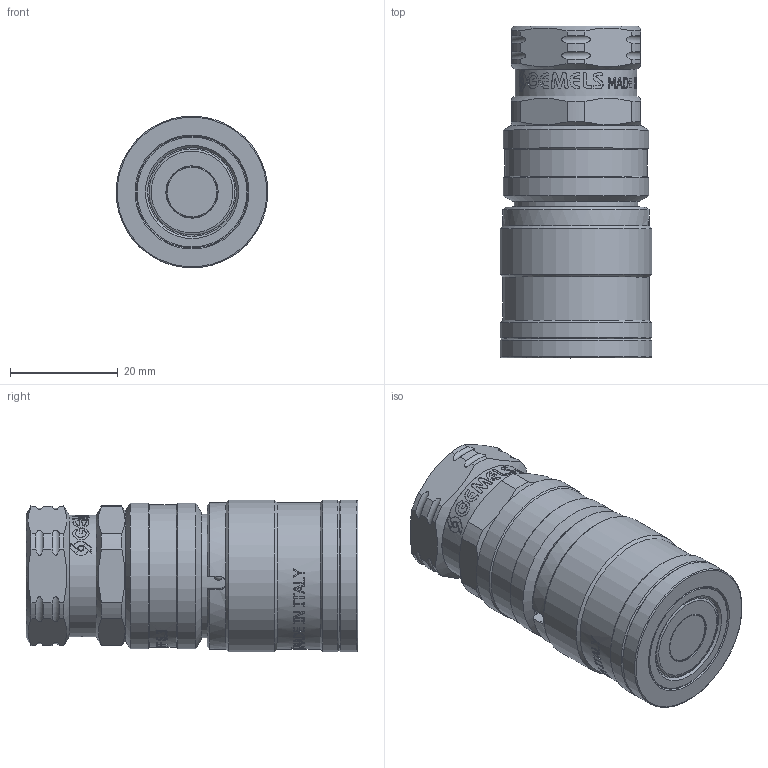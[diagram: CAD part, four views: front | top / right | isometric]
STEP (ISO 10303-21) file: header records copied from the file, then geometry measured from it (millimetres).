
FILE_DESCRIPTION(/* description */ (''),/* implementation_level */ '2;1');
FILE_NAME(/* name */ 'NC06S010000.stp',/* time_stamp */ '2024-11-22T14:48:29+01:00',/* author */ ('thomas.belotti'),/* organization */ (''),/* preprocessor_version */ 'ST-DEVELOPER v20',/* originating_system */ 'Autodesk Inventor 2024',/* authorisation */ '');
FILE_SCHEMA (('AUTOMOTIVE_DESIGN { 1 0 10303 214 3 1 1 }'));
Products named in the file (1): Parte1
Bounding box: 28.12 x 61.59 x 28.12 mm (x, y, z)
Volume: 32417.5 mm3; surface area: 8024.3 mm2
Topology: 1 solids, 3 shells, 1665 faces, 4736 edges, 3144 vertices
Faces by surface type: bspline 1077, plane 418, cylinder 126, cone 23, torus 16, sphere 5
Full cylindrical faces by diameter (mm): 1.5 x2, 9.7 x1, 9.88 x1, 10 x1, 20.4 x1, 20.8 x1, 22 x1, 22.3 x1, 22.5 x1, 23 x1, 23.4 x1, 26.5 x1, 27 x2, 27.2 x1, 28.2 x3
Entity records: 72242 total; most frequent: CARTESIAN_POINT 34378, ORIENTED_EDGE 9464, EDGE_CURVE 4732, DIRECTION 4211, VERTEX_POINT 3144, B_SPLINE_CURVE_WITH_KNOTS 2259, LINE 1857, VECTOR 1857
